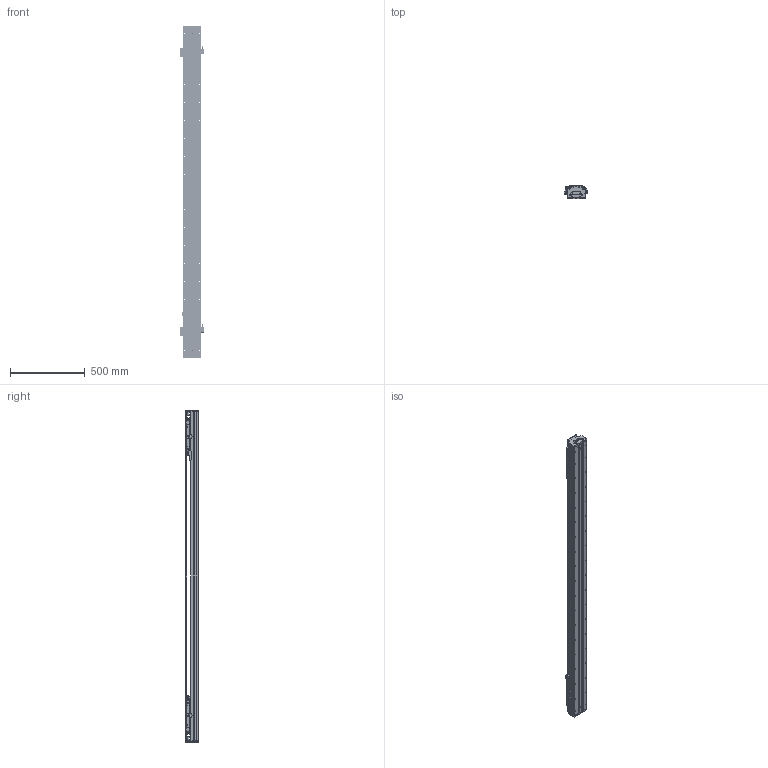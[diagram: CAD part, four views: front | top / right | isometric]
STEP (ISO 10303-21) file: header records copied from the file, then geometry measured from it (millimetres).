
FILE_DESCRIPTION (( 'STEP AP203' ), '1' );
FILE_NAME ('DKW120-2×B3-W060（T1580-L005-0.2）.STEP', '2021-09-29T01:29:33', ( '微软用户' ), ( '微软中国' ), 'SwSTEP 2.0', 'SolidWorks 2018', '' );
FILE_SCHEMA (( 'CONFIG_CONTROL_DESIGN' ));
Length unit declared in the file: millimetre
Products named in the file (22): EE_SX674A; 12160-0000-004-00  DKW120詩湍揤輸; DKW120-B15-T300-DZ-00 菁釱; B3-W060_00; DKW120 单轴模组-拉钢带组件; MSB15-DG-U; DKW-DG-XJ-Z-00 笢潔滅袉砎蝶; BKMA01-W060-TRL280; 06652-0001-001-00 DKW120傷啣; DKW-GYP-ZJ-00 笢潔嫖萇覜茼え; RUS嫖掑喜; 06652-0001-004-00 DKW120嶺輸菜輸; DKW-KGZ-ZJ-00 中间光电开关支架; Ru2; DKW-HXJ-JY-00 遣喳砎蝶; DKW120-2×B3-W060（T1580-L005-0.2）; DKW119-RU-DTJ-00 RU2黍杅芛盓殤; 10940-0001-004-00 120詩湍裔啣; 10980-0001-003-00 嫖萇羲壽嘐隅釱; 砎蝶猾沭; DKW-SG-GYP-H-00 嫖萇覜茼え; 12160-0000-003-00 DKW120詩湍嶺輸
Assembly tree (41 placements, depth 3):
  DKW120-2×B3-W060（T1580-L005-0.2）
    DKW120-B15-T300-DZ-00 菁釱
    MSB15-DG-U  x2
    DKW120 单轴模组-拉钢带组件
      06652-0001-001-00 DKW120傷啣  x2
      06652-0001-004-00 DKW120嶺輸菜輸  x4
      DKW-HXJ-JY-00 遣喳砎蝶  x4
      10940-0001-004-00 120詩湍裔啣
      砎蝶猾沭  x2
      12160-0000-003-00 DKW120詩湍嶺輸  x2
      12160-0000-004-00  DKW120詩湍揤輸  x2
    BKMA01-W060-TRL280
    RUS嫖掑喜
    Ru2  x2
    DKW119-RU-DTJ-00 RU2黍杅芛盓殤  x2
    10980-0001-003-00 嫖萇羲壽嘐隅釱  x2
    DKW-SG-GYP-H-00 嫖萇覜茼え  x2
    EE_SX674A  x5
    B3-W060_00  x2
    DKW-DG-XJ-Z-00 笢潔滅袉砎蝶
    DKW-GYP-ZJ-00 笢潔嫖萇覜茼え
    DKW-KGZ-ZJ-00 中间光电开关支架
Bounding box: 154.1 x 84 x 2216 mm (x, y, z)
Volume: 8608963 mm3; surface area: 3257601.7 mm2
Topology: 60 solids, 158 shells, 6676 faces, 18154 edges, 11691 vertices
Faces by surface type: plane 3642, cylinder 2020, cone 520, bspline 494
Entity records: 145538 total; most frequent: CARTESIAN_POINT 49714, ORIENTED_EDGE 19853, DIRECTION 18514, EDGE_CURVE 9967, VERTEX_POINT 6541, AXIS2_PLACEMENT_3D 6234, LINE 6046, VECTOR 6046
